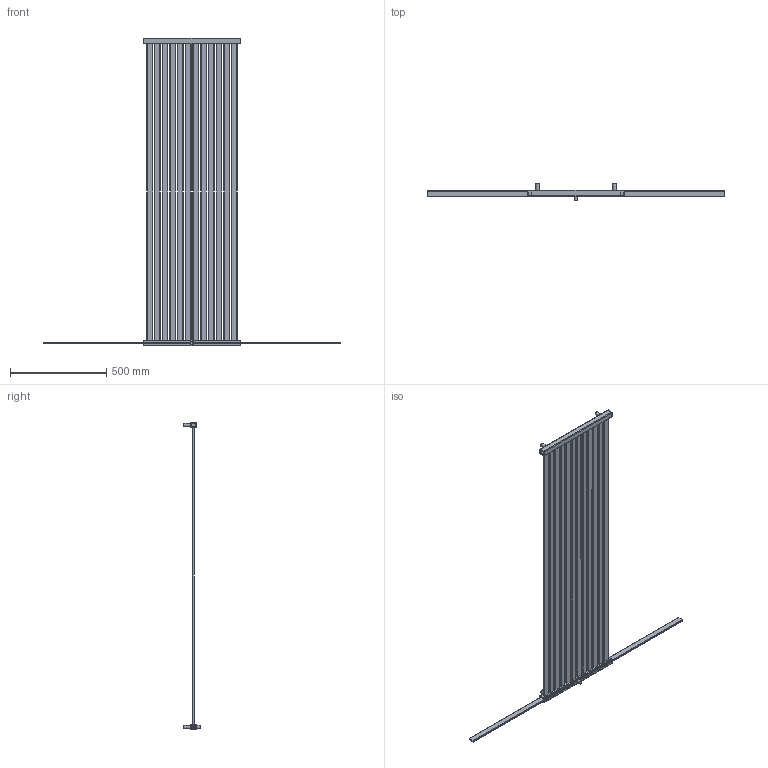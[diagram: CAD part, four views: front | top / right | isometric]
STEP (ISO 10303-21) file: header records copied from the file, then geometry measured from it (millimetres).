
FILE_DESCRIPTION( ( 'Unknown' ), '1' );
FILE_NAME( 'D:/RYSUNKI/RYSUNKI SOLID/SEJWAL/NOWE/2021/SUMATRA/SUMATRA.stp', 'Unknown', ( 'Unknown' ), ( 'Unknown' ), 'XStep 1.0', 'Unknown', ' ' );
FILE_SCHEMA( ( 'automotive_design' ) );
Length unit declared in the file: millimetre
Products named in the file (4): Assem1; profil-30x30; profil-30x10; MOCOWANIE
Bounding box: 1540 x 85 x 1600 mm (x, y, z)
Volume: 4138077.7 mm3; surface area: 3023229.4 mm2
Topology: 21 solids, 21 shells, 250 faces, 611 edges, 409 vertices
Faces by surface type: plane 164, cylinder 80, torus 6
Full cylindrical faces by diameter (mm): 15 x5, 18 x5, 20 x6
Entity records: 1119 total; most frequent: DIRECTION 202, CARTESIAN_POINT 173, ORIENTED_EDGE 140, AXIS2_PLACEMENT_3D 79, EDGE_CURVE 70, VERTEX_POINT 50, EDGE_LOOP 46, LINE 44
